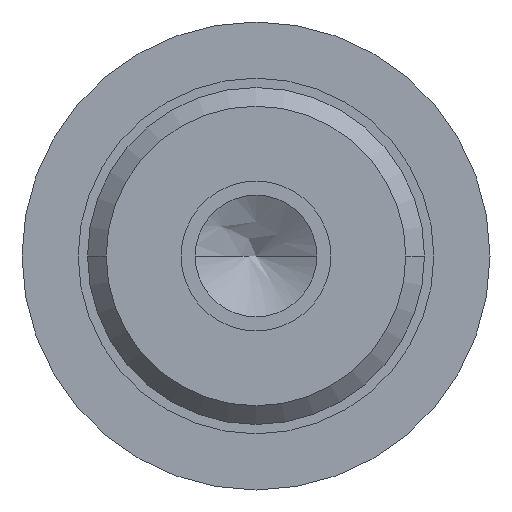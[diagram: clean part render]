
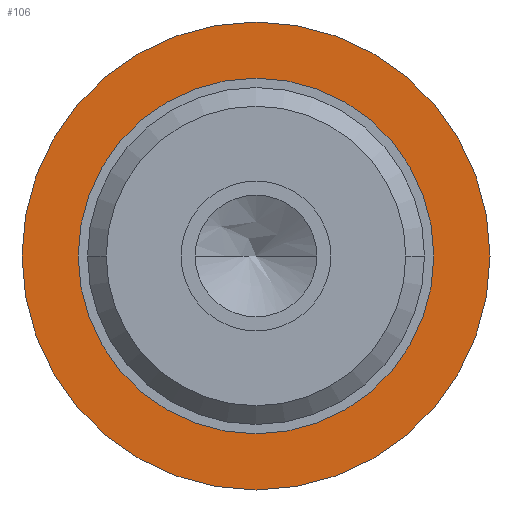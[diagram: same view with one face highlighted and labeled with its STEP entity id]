
A CAD part, left-side view. The second image highlights one B-rep face of the part: STEP entity #106.
In plain terms, the highlighted free-form (B-spline) face has degree [1, 1] with [2, 2] control points.
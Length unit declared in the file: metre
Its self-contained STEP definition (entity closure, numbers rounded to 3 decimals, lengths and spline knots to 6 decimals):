
#106 = ADVANCED_FACE( '', ( #182, #183 ), #184, .F. );
#182 = FACE_BOUND( '', #352, .T. );
#183 = FACE_OUTER_BOUND( '', #353, .T. );
#184 = B_SPLINE_SURFACE_WITH_KNOTS( '', 1, 1, ( ( #354, #355 ), ( #356, #357 ) ), .UNSPECIFIED., .F., .F., .F., ( 2, 2 ), ( 2, 2 ), ( 0., 1. ), ( 0., 1. ), .UNSPECIFIED. );
#352 = EDGE_LOOP( '', ( #587, #588 ) );
#353 = EDGE_LOOP( '', ( #589, #590 ) );
#354 = CARTESIAN_POINT( '', ( 0.023, -0.01265, -0.01265 ) );
#355 = CARTESIAN_POINT( '', ( 0.023, -0.01265, 0.01265 ) );
#356 = CARTESIAN_POINT( '', ( 0.023, 0.01265, -0.01265 ) );
#357 = CARTESIAN_POINT( '', ( 0.023, 0.01265, 0.01265 ) );
#587 = ORIENTED_EDGE( '', *, *, #710, .T. );
#588 = ORIENTED_EDGE( '', *, *, #708, .T. );
#589 = ORIENTED_EDGE( '', *, *, #715, .F. );
#590 = ORIENTED_EDGE( '', *, *, #712, .F. );
#708 = EDGE_CURVE( '', #814, #818, #820, .F. );
#710 = EDGE_CURVE( '', #818, #814, #822, .F. );
#712 = EDGE_CURVE( '', #823, #826, #827, .F. );
#715 = EDGE_CURVE( '', #826, #823, #831, .F. );
#814 = VERTEX_POINT( '', #956 );
#818 = VERTEX_POINT( '', #961 );
#820 = CIRCLE( '', #964, 0.009 );
#822 = CIRCLE( '', #966, 0.009 );
#823 = VERTEX_POINT( '', #967 );
#826 = VERTEX_POINT( '', #971 );
#827 = CIRCLE( '', #972, 0.0125 );
#831 = CIRCLE( '', #977, 0.0125 );
#956 = CARTESIAN_POINT( '', ( 0.023, 0.009, 0. ) );
#961 = CARTESIAN_POINT( '', ( 0.023, -0.009, 0. ) );
#964 = AXIS2_PLACEMENT_3D( '', #1126, #1127, #1128 );
#966 = AXIS2_PLACEMENT_3D( '', #1132, #1133, #1134 );
#967 = CARTESIAN_POINT( '', ( 0.023, 0.0125, 0. ) );
#971 = CARTESIAN_POINT( '', ( 0.023, -0.0125, 0. ) );
#972 = AXIS2_PLACEMENT_3D( '', #1136, #1137, #1138 );
#977 = AXIS2_PLACEMENT_3D( '', #1143, #1144, #1145 );
#1126 = CARTESIAN_POINT( '', ( 0.023, 0., 0. ) );
#1127 = DIRECTION( '', ( -1., 0., 0. ) );
#1128 = DIRECTION( '', ( 0., -1., 0. ) );
#1132 = CARTESIAN_POINT( '', ( 0.023, 0., 0. ) );
#1133 = DIRECTION( '', ( -1., 0., 0. ) );
#1134 = DIRECTION( '', ( 0., -1., 0. ) );
#1136 = CARTESIAN_POINT( '', ( 0.023, 0., 0. ) );
#1137 = DIRECTION( '', ( -1., 0., 0. ) );
#1138 = DIRECTION( '', ( 0., -1., 0. ) );
#1143 = CARTESIAN_POINT( '', ( 0.023, 0., 0. ) );
#1144 = DIRECTION( '', ( -1., 0., 0. ) );
#1145 = DIRECTION( '', ( 0., -1., 0. ) );
